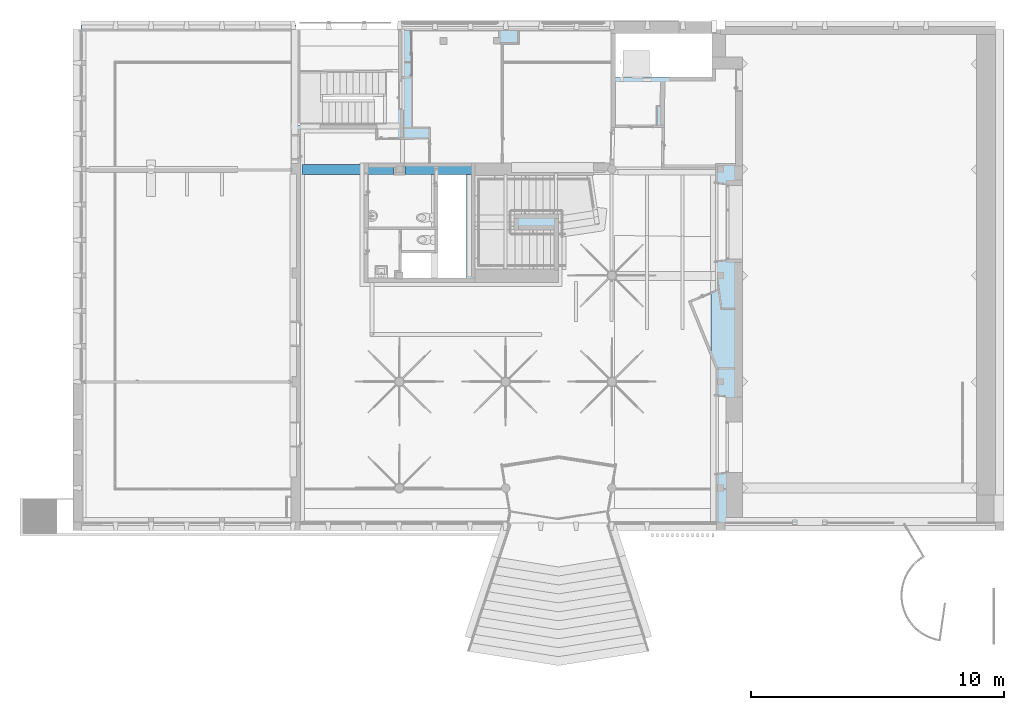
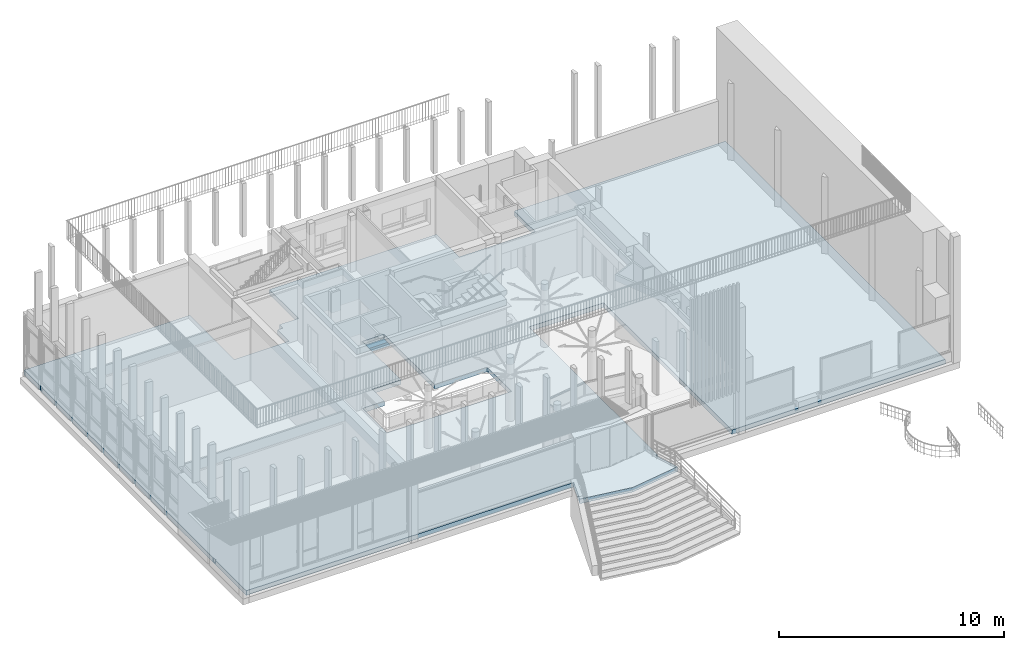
# One storey, part 26 of 65: 1 beam, 1 slab.
"""IFC4 building model written with IfcOpenShell, lengths in metres."""

from ifc_helpers import new_model, entity, si_unit, converted_unit, derived_unit, direction, frame, origin, place, context, subcontext, project, spatial, polygons, source, transform, mapped, material, layer, layer_set, type_object, type_shapes, element, save


model = new_model("IFC4")

# Units and contexts
model_context = context("Model", 3, precision=1e-05, world=origin(), true_north=direction((6.12303176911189e-17, 1.0)))
body_context = subcontext(model_context, "Body", "Model", "MODEL_VIEW")
ifc_project = project(units=[si_unit("LENGTHUNIT", "METRE"), si_unit("AREAUNIT", "SQUARE_METRE"), si_unit("VOLUMEUNIT", "CUBIC_METRE"), converted_unit("PLANEANGLEUNIT", "DEGREE", entity("IfcRatioMeasure", 0.0174532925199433), si_unit("PLANEANGLEUNIT", "RADIAN"), dimensions=[0, 0, 0, 0, 0, 0, 0]), si_unit("MASSUNIT", "GRAM", prefix="KILO"), derived_unit("MASSDENSITYUNIT", [(si_unit("MASSUNIT", "GRAM", prefix="KILO"), 1), (si_unit("LENGTHUNIT", "METRE"), -3)]), derived_unit("MOMENTOFINERTIAUNIT", [(si_unit("LENGTHUNIT", "METRE"), 4)]), si_unit("TIMEUNIT", "SECOND"), si_unit("FREQUENCYUNIT", "HERTZ"), si_unit("THERMODYNAMICTEMPERATUREUNIT", "DEGREE_CELSIUS"), derived_unit("THERMALTRANSMITTANCEUNIT", [(si_unit("MASSUNIT", "GRAM", prefix="KILO"), 1), (si_unit("THERMODYNAMICTEMPERATUREUNIT", "KELVIN"), -1), (si_unit("TIMEUNIT", "SECOND"), -3)]), derived_unit("VOLUMETRICFLOWRATEUNIT", [(si_unit("LENGTHUNIT", "METRE"), 3), (si_unit("TIMEUNIT", "SECOND"), -1)]), si_unit("ELECTRICCURRENTUNIT", "AMPERE"), si_unit("ELECTRICVOLTAGEUNIT", "VOLT"), si_unit("POWERUNIT", "WATT"), si_unit("FORCEUNIT", "NEWTON", prefix="KILO"), si_unit("ILLUMINANCEUNIT", "LUX"), si_unit("LUMINOUSFLUXUNIT", "LUMEN"), si_unit("LUMINOUSINTENSITYUNIT", "CANDELA"), derived_unit("USERDEFINED", [(si_unit("MASSUNIT", "GRAM", prefix="KILO"), -1), (si_unit("LENGTHUNIT", "METRE"), -2), (si_unit("TIMEUNIT", "SECOND"), 3), (si_unit("LUMINOUSFLUXUNIT", "LUMEN"), 1)]), derived_unit("LINEARVELOCITYUNIT", [(si_unit("LENGTHUNIT", "METRE"), 1), (si_unit("TIMEUNIT", "SECOND"), -1)]), si_unit("PRESSUREUNIT", "PASCAL"), derived_unit("USERDEFINED", [(si_unit("LENGTHUNIT", "METRE"), -2), (si_unit("MASSUNIT", "GRAM", prefix="KILO"), 1), (si_unit("TIMEUNIT", "SECOND"), -2)]), derived_unit("LINEARFORCEUNIT", [(si_unit("MASSUNIT", "GRAM", prefix="KILO"), 1), (si_unit("LENGTHUNIT", "METRE"), 1), (si_unit("TIMEUNIT", "SECOND"), -2), (si_unit("LENGTHUNIT", "METRE"), -1)]), derived_unit("PLANARFORCEUNIT", [(si_unit("MASSUNIT", "GRAM", prefix="KILO"), 1), (si_unit("LENGTHUNIT", "METRE"), 1), (si_unit("TIMEUNIT", "SECOND"), -2), (si_unit("LENGTHUNIT", "METRE"), -2)])], contexts=[model_context])

# Site, building, storey
site_placement = place(None, origin())
site = spatial("IfcSite", under=ifc_project, at=site_placement, Name="Default", CompositionType="ELEMENT")
building_placement = place(site_placement, origin())
building = spatial("IfcBuilding", under=site, at=building_placement, Name="HOTEL CONSULAIRE BOULOGNE SUR MER", CompositionType="ELEMENT")
storey_placement = place(building_placement, origin())
storey = spatial("IfcBuildingStorey", under=building, at=storey_placement, Name="Niveau 0", CompositionType="ELEMENT", Elevation=1.31981936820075e-13)

# Beam
ifc_material = material(Name="Béton - Béton coulé sur place", Category="Béton")
beam_type = type_object("IfcBeamType", Name="Poutre rectangulaire - Béton:400x220", PredefinedType="BEAM", material=ifc_material)
shared_shape = source(origin(), body_context, "Body", "Tessellation", [
    polygons([(0.0, 2.38230768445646e-14, 2.70716782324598e-16), (0.0, 2.38230768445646e-14, 0.22), (0.0, 0.0304277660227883, 0.22), (0.0, 0.0304277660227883, 2.70716782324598e-16), (3.63396950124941, 1.51601398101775e-14, 0.22), (3.63396950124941, 1.51601398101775e-14, 1.35358391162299e-16), (3.63396950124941, 0.400000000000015, 1.35358391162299e-16), (3.63396950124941, 0.400000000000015, 0.22), (0.0558009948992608, 2.38230768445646e-14, 2.70716782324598e-16), (0.12580099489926, 2.38230768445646e-14, 2.70716782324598e-16), (3.46132705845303, 1.51601398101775e-14, 1.35358391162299e-16), (3.53132705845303, 1.51601398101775e-14, 1.35358391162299e-16), (3.53132705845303, 1.51601398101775e-14, 0.22), (3.46132705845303, 1.51601398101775e-14, 0.22), (0.12580099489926, 2.38230768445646e-14, 0.22), (0.0558009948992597, 2.38230768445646e-14, 0.22), (0.0122845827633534, 0.0304277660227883, 2.03037586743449e-16), (0.0122845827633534, 0.400000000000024, 2.03037586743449e-16), (0.0558009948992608, 0.400000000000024, 2.03037586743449e-16), (0.125800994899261, 0.400000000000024, 2.03037586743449e-16), (3.46132705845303, 0.400000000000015, 1.35358391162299e-16), (3.53132705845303, 0.400000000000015, 1.35358391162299e-16), (0.0122845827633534, 0.400000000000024, 0.22), (0.0122845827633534, 0.0304277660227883, 0.22)], [[[4, 1, 2, 3]], [[18, 17, 24, 23]], [[6, 7, 8, 5]], [[12, 6, 5, 13, 14, 15, 16, 2, 1, 9, 10, 11]], [[6, 12, 11, 10, 9, 1, 4, 17, 18, 19, 20, 21, 22, 7]], [[7, 22, 21, 20, 19, 18, 23, 8]], [[17, 4, 3, 24]], [[8, 23, 24, 3, 2, 16, 15, 14, 13, 5]]], closed=True),
    polygons([(4.08396950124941, 1.29944055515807e-14, 0.22), (4.0839695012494, 1.29944055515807e-14, 1.35358391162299e-16), (5.1253328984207, 1.08286712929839e-14, 1.35358391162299e-16), (5.3753328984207, 8.66293703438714e-15, 1.35358391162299e-16), (5.39006092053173, 8.66293703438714e-15, 1.35358391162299e-16), (6.23956552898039, 6.49720277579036e-15, 6.76791955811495e-17), (6.30956552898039, 6.49720277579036e-15, 6.76791955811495e-17), (6.5333328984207, 6.49720277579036e-15, 6.76791955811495e-17), (6.7833328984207, 4.33146851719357e-15, 6.76791955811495e-17), (7.74639668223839, 2.16573425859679e-15, 0.0), (7.81639668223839, 2.16573425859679e-15, 0.0), (7.9896337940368, 2.16573425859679e-15, 0.0), (8.1096337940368, 2.16573425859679e-15, 0.0), (8.1096337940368, 2.16573425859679e-15, 0.22), (7.9896337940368, 2.16573425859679e-15, 0.22), (7.81639668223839, 2.16573425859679e-15, 0.22), (7.74639668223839, 2.16573425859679e-15, 0.22), (6.7833328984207, 4.33146851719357e-15, 0.22), (6.5333328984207, 6.49720277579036e-15, 0.22), (6.30956552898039, 6.49720277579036e-15, 0.22), (6.23956552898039, 6.49720277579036e-15, 0.22), (5.39006092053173, 8.66293703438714e-15, 0.22), (5.3753328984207, 8.66293703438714e-15, 0.22), (5.1253328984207, 1.08286712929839e-14, 0.22), (4.08396950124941, 0.400000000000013, 6.76791955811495e-17), (5.26006092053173, 0.400000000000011, 6.76791955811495e-17), (5.39006092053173, 0.400000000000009, 6.76791955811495e-17), (6.23956552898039, 0.400000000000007, 6.76791955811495e-17), (6.30956552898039, 0.400000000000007, 6.76791955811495e-17), (7.32980415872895, 0.400000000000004, 0.0), (7.84911541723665, 0.400000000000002, 0.0), (7.84911541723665, 0.300000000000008, 0.0), (7.84911541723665, 0.0765964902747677, 0.0), (7.84911541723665, 0.0300000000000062, 0.0), (8.1096337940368, 0.0300000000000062, 0.0), (4.08396950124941, 0.400000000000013, 0.22), (7.31780415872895, 0.400000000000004, 0.22), (7.84911541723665, 0.400000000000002, 0.22), (8.1096337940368, 0.0300000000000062, 0.22), (7.84911541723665, 0.0300000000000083, 0.22)], [[[15, 16, 17, 18, 19, 20, 21, 22, 23, 24, 1, 2, 3, 4, 5, 6, 7, 8, 9, 10, 11, 12, 13, 14]], [[35, 13, 12, 11, 10, 9, 8, 7, 6, 5, 4, 3, 2, 25, 26, 27, 28, 29, 30, 31, 32, 33, 34]], [[31, 30, 29, 28, 27, 26, 25, 36, 37, 38]], [[34, 40, 39, 35]], [[17, 16, 15, 14, 39, 40, 38, 37, 36, 1, 24, 23, 22, 21, 20, 19, 18]], [[2, 1, 36, 25]], [[32, 31, 38, 40, 34, 33]], [[35, 39, 14, 13]]], closed=True),
])
type_shapes(beam_type, [shared_shape])
beam_placement = place(storey_placement, frame((-5.08779272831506, -15.8256940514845, -0.490000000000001)))
element("IfcBeam", 1, at=beam_placement, inside=storey, type_object=beam_type, material=ifc_material, Name="Poutre rectangulaire - Béton:400x220", ObjectType="Poutre rectangulaire - Béton:400x220", PredefinedType="BEAM", context=body_context, shape_type="MappedRepresentation", body=[
    mapped(shared_shape, transform((0.0, 0.0, 0.0), scale=1.0)),
])

# Slab
ifc_layer = layer(ifc_material, 0.25, Name="Béton - Béton coulé sur place", Category="Béton")
ifc_layer_set = layer_set([ifc_layer], Name="Sol:Dalle en béton -250")
slab_type = type_object("IfcSlabType", Name="Sol:Dalle en béton -250", PredefinedType="FLOOR", material=ifc_layer_set)
slab_placement = place(storey_placement, origin())
element("IfcSlab", 2, at=slab_placement, inside=storey, type_object=slab_type, material=ifc_layer_set, Name="Sol:Dalle en béton -250", ObjectType="Sol:Dalle en béton -250", PredefinedType="FLOOR", context=body_context, shape_type="Tessellation", body=[
    polygons([(-5.3197731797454, -13.8709141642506, -0.27), (-5.24033751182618, -13.8709141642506, -0.27), (-5.1597731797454, -13.8709141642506, -0.27), (-2.50428982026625, -13.8709141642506, -0.27), (-2.50428982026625, -13.7983331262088, -0.27), (-2.50428982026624, -12.849121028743, -0.27), (-2.24428982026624, -12.849121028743, -0.27), (-2.24428982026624, -12.5416323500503, -0.27), (-2.16180109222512, -12.5416323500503, -0.27), (-1.25942350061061, -12.5416323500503, -0.27), (-1.25942350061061, -12.0991864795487, -0.27), (-1.25942350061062, -9.96532416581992, -0.27), (-1.17098066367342, -9.96532416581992, -0.27), (-1.1294235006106, -9.96532416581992, -0.27), (7.30898026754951, -9.96532416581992, -0.27), (7.30898026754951, -10.0746323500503, -0.27), (7.30898026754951, -10.23432416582, -0.27), (7.30898026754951, -11.9707913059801, -0.27), (7.30898026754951, -11.9891940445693, -0.27), (9.08776203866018, -11.9891940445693, -0.27), (9.44777870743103, -11.9891940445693, -0.27), (11.1311975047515, -11.9891940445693, -0.27), (11.2031975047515, -11.9891940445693, -0.27), (11.2031975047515, -11.1691940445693, -0.27), (11.2031975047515, -10.24032416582, -0.27), (11.2031975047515, -10.1340173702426, -0.27), (11.4609585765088, -10.1340173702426, -0.27), (21.6200604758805, -10.1340173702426, -0.27), (22.0329359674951, -10.1340173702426, -0.27), (22.0329359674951, -10.2140173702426, -0.27), (22.0329359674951, -29.3180671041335, -0.27), (22.0329359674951, -29.5640671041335, -0.27), (22.0329359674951, -29.6580671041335, -0.27), (11.0822268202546, -29.6580671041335, -0.27), (11.0822268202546, -29.5640671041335, -0.27), (11.0822268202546, -28.0462737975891, -0.27), (11.0822268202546, -27.9162737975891, -0.27), (11.0822268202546, -22.1692190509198, -0.27), (11.0822268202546, -21.9392190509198, -0.27), (11.0822268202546, -20.0152245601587, -0.27), (11.0822268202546, -19.6652245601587, -0.27), (11.0822268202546, -18.2783685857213, -0.27), (10.0280216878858, -18.2659703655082, -0.27), (9.90802168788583, -18.2645590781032, -0.27), (8.62702168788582, -18.249493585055, -0.27), (8.50702168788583, -18.24808229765, -0.27), (7.27213720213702, -18.2335591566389, -0.27), (7.27213720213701, -19.6652245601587, -0.27), (7.27213720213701, -20.0152245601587, -0.27), (7.272137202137, -27.9162737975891, -0.27), (7.272137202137, -28.0462737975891, -0.27), (7.272137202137, -29.3180671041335, -0.27), (7.272137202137, -29.5640671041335, -0.27), (7.272137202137, -29.6580671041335, -0.27), (7.17216877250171, -29.6580671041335, -0.27), (7.2451378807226, -29.8840671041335, -0.27), (7.57524089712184, -30.90646251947, -0.27), (7.43528173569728, -30.9286298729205, -0.27), (5.06085487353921, -31.3047021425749, -0.27), (2.69909746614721, -30.9306365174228, -0.27), (2.55895849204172, -30.9084406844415, -0.27), (2.8987678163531, -29.8840671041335, -0.27), (2.97373744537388, -29.6580671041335, -0.27), (-13.8039806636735, -29.6580671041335, -0.27), (-13.8150998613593, -29.6580671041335, -0.27), (-13.8150998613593, -28.2725999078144, -0.27), (-13.8150998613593, -28.1502999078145, -0.27), (-13.8150998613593, -26.8725999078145, -0.27), (-13.8150998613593, -26.7502999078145, -0.27), (-13.8150998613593, -25.4725999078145, -0.27), (-13.8150998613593, -25.3502999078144, -0.27), (-13.8150998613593, -24.0725999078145, -0.27), (-13.8150998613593, -23.9502999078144, -0.27), (-13.8150998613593, -22.6725999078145, -0.27), (-13.8150998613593, -22.5502999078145, -0.27), (-13.8150998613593, -21.2725999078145, -0.27), (-13.8150998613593, -21.1502999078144, -0.27), (-13.8150998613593, -19.8725999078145, -0.27), (-13.8150998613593, -19.7502999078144, -0.27), (-13.8150998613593, -18.4725999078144, -0.27), (-13.8150998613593, -18.3502999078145, -0.27), (-13.8150998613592, -17.0725999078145, -0.27), (-13.8150998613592, -16.9502999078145, -0.27), (-13.8150998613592, -15.6725999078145, -0.27), (-13.8150998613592, -15.5502999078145, -0.27), (-13.8150998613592, -14.2725999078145, -0.27), (-13.8150998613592, -14.1502999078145, -0.27), (-13.8150998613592, -12.8725999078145, -0.27), (-13.8150998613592, -12.7502999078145, -0.27), (-13.8150998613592, -11.4725999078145, -0.27), (-13.8150998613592, -11.3502999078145, -0.27), (-13.8150998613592, -10.0846323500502, -0.27), (-13.8150998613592, -9.91463235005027, -0.27), (-13.7939806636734, -9.91463235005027, -0.27), (-5.50398066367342, -9.91463235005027, -0.27), (-5.3197731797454, -9.91463235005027, -0.27), (-5.3197731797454, -10.0846323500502, -0.27), (-1.15234448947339, -20.0049143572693, -0.27), (-2.27435158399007, -20.0049143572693, -0.27), (-2.27435158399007, -20.0949143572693, -0.27), (-2.27435158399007, -22.1692190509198, -0.27), (4.10717677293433, -22.1692190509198, -0.27), (4.10717677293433, -22.0792190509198, -0.27), (4.11741462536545, -22.0792190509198, -0.27), (4.11741462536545, -20.0949143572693, -0.27), (4.10717677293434, -20.0949143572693, -0.27), (4.10717677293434, -20.0049143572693, -0.27), (2.70617677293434, -20.0049143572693, -0.27), (1.41777280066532, -20.0049143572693, -0.27), (1.41777280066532, -19.9149143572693, -0.27), (1.41777280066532, -19.8349143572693, -0.27), (1.41777280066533, -16.421909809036, -0.27), (1.41777280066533, -15.5052420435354, -0.27), (0.302268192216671, -15.5052420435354, -0.27), (0.302268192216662, -18.9327095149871, -0.27), (-1.15234448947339, -18.9327095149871, -0.27), (-1.15234448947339, -19.9149143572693, -0.27), (-1.15234448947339, -19.992909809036, -0.27), (-2.50428982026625, -13.8709141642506, -0.02), (-2.66468350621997, -13.8709141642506, -0.02), (-5.1597731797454, -13.8709141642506, -0.02), (-5.3197731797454, -13.8709141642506, -0.02), (-5.3197731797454, -10.0846323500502, -0.02), (-5.3197731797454, -9.91463235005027, -0.02), (-5.50398066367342, -9.91463235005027, -0.02), (-8.15492540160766, -9.91463235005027, -0.02), (-8.32791454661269, -9.91463235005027, -0.02), (-10.9549254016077, -9.91463235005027, -0.02), (-11.1279145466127, -9.91463235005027, -0.02), (-13.7939806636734, -9.91463235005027, -0.02), (-13.8150998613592, -9.91463235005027, -0.02), (-13.8150998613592, -10.0846323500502, -0.02), (-13.8150998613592, -10.1503241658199, -0.02), (-13.8150998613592, -11.3114499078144, -0.02), (-13.7881025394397, -11.3114499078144, -0.02), (-13.7881025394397, -11.5114499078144, -0.02), (-13.8150998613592, -11.5114499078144, -0.02), (-13.8150998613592, -12.7114499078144, -0.02), (-13.8150998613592, -12.9114499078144, -0.02), (-13.8150998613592, -14.1114499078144, -0.02), (-13.8150998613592, -14.3114499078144, -0.02), (-13.8150998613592, -15.5114499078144, -0.02), (-13.8150998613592, -15.7114499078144, -0.02), (-13.8150998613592, -16.9114499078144, -0.02), (-13.8150998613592, -17.1114499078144, -0.02), (-13.8150998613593, -18.3114499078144, -0.02), (-13.8150998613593, -18.5114499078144, -0.02), (-13.8150998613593, -19.7114499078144, -0.02), (-13.8150998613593, -19.9114499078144, -0.02), (-13.8150998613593, -21.1114499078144, -0.02), (-13.8150998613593, -21.3114499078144, -0.02), (-13.8150998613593, -22.5114499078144, -0.02), (-13.8150998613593, -22.7114499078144, -0.02), (-13.8150998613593, -23.9114499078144, -0.02), (-13.8150998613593, -24.1114499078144, -0.02), (-13.8150998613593, -26.7114499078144, -0.02), (-13.7881025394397, -26.7114499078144, -0.02), (-13.7881025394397, -26.9114499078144, -0.02), (-13.8150998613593, -26.9114499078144, -0.02), (-13.8150998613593, -29.6580671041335, -0.02), (-13.7293496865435, -29.6580671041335, -0.02), (-5.50977317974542, -29.6580671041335, -0.02), (2.82623558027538, -29.6580671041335, -0.02), (2.97373744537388, -29.6580671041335, -0.02), (2.55895849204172, -30.9084406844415, -0.02), (2.69909746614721, -30.9306365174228, -0.02), (5.06085487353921, -31.3047021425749, -0.02), (7.43528173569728, -30.9286298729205, -0.02), (7.57524089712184, -30.90646251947, -0.02), (7.17216877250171, -29.6580671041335, -0.02), (7.272137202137, -29.6580671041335, -0.02), (7.272137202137, -29.5760989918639, -0.02), (7.27213720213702, -18.2335591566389, -0.02), (11.0822268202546, -18.2783685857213, -0.02), (11.0822268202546, -29.6580671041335, -0.02), (11.6466382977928, -29.6580671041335, -0.02), (14.3064778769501, -29.6580671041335, -0.02), (14.4864778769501, -29.6580671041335, -0.02), (15.4884235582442, -29.6580671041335, -0.02), (15.6684235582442, -29.6580671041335, -0.02), (22.0329359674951, -29.6580671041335, -0.02), (22.0329359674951, -29.5540671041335, -0.02), (22.0329359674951, -29.3880671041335, -0.02), (22.0329359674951, -28.480909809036, -0.02), (22.0329359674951, -10.2940173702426, -0.02), (22.0329359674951, -10.1340173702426, -0.02), (21.5779359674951, -10.1340173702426, -0.02), (11.4609585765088, -10.1340173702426, -0.02), (11.2031975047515, -10.1340173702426, -0.02), (11.2031975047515, -10.24032416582, -0.02), (11.2031975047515, -11.1691940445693, -0.02), (11.2031975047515, -11.9891940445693, -0.02), (11.1311975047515, -11.9891940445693, -0.02), (9.44777870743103, -11.9891940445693, -0.02), (9.08776203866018, -11.9891940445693, -0.02), (7.30898026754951, -11.9891940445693, -0.02), (7.30898026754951, -10.24032416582, -0.02), (7.30898026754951, -9.96532416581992, -0.02), (7.12898026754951, -9.96532416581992, -0.02), (-1.25942350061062, -9.96532416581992, -0.02), (-1.25942350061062, -10.15032416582, -0.02), (-1.25942350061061, -12.5416323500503, -0.02), (-2.24428982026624, -12.5416323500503, -0.02), (-2.24428982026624, -12.849121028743, -0.02), (-2.50428982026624, -12.849121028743, -0.02), (-2.50428982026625, -13.7983331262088, -0.02), (-2.27435158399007, -20.0049143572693, -0.02), (-1.15234448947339, -20.0049143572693, -0.02), (-1.15234448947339, -19.9149143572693, -0.02), (-1.15234448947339, -19.6199143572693, -0.02), (-1.15234448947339, -18.9327095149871, -0.02), (0.172268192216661, -18.9327095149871, -0.02), (0.302268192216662, -18.9327095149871, -0.02), (0.302268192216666, -18.0025602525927, -0.02), (0.302268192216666, -17.8875602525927, -0.02), (0.302268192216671, -15.5052420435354, -0.02), (1.41777280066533, -15.5052420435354, -0.02), (1.41777280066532, -19.9149143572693, -0.02), (1.41777280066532, -20.0049143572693, -0.02), (2.70617677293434, -20.0049143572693, -0.02), (4.10717677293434, -20.0049143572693, -0.02), (4.10717677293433, -22.1692190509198, -0.02), (-2.23349679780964, -22.1692190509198, -0.02), (-2.27435158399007, -22.1692190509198, -0.02), (-2.27435158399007, -20.0949143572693, -0.02), (-1.25942350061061, -12.5416323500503, -0.175524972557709), (-1.25942350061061, -9.96532416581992, -0.22), (4.10717677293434, -20.0949143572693, -0.178964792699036), (4.10717677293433, -22.0792190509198, -0.178964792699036), (7.30898026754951, -9.96532416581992, -0.220000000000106), (22.0329359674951, -29.6580671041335, -0.220000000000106), (11.0822268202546, -29.6580671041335, -0.169999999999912), (11.0822268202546, -29.6580671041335, -0.220000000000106), (-13.8150998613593, -29.6580671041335, -0.220000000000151), (-13.8150998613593, -26.9114499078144, -0.220000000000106), (-13.8150998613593, -26.7114499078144, -0.220000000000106), (-13.8150998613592, -11.5114499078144, -0.220000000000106), (-13.8150998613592, -11.3114499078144, -0.220000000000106), (22.0329359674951, -10.1340173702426, -0.220000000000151), (-13.7881025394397, -26.9114499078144, -0.220000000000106), (-13.7881025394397, -26.7114499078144, -0.220000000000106), (11.0822268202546, -18.2783685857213, -0.169999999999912), (7.27213720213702, -18.2335591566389, -0.169999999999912), (7.272137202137, -29.6580671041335, -0.169999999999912), (7.272137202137, -29.6580671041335, -0.220000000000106), (7.17216877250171, -29.6580671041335, -0.220000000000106), (2.97373744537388, -29.6580671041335, -0.220000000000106), (5.06085487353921, -31.3047021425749, -0.151783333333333), (5.06085487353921, -31.3047021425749, -0.181783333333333), (-13.7881025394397, -11.5114499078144, -0.220000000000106), (-13.7881025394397, -11.3114499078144, -0.220000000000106), (4.11741462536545, -20.0949143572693, -0.178964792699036), (4.11741462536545, -22.0792190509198, -0.178964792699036)], [[[92, 93, 94, 95, 96, 97, 1, 2, 3, 4, 5, 6, 7, 8, 9, 10, 11, 12, 13, 14, 15, 16, 17, 18, 19, 20, 21, 22, 23, 24, 25, 26, 27, 28, 29, 30, 31, 32, 33, 34, 35, 36, 37, 38, 39, 40, 41, 42, 43, 44, 45, 46, 47, 48, 49, 50, 51, 52, 53, 54, 55, 56, 57, 58, 59, 60, 61, 62, 63, 64, 65, 66, 67, 68, 69, 70, 71, 72, 73, 74, 75, 76, 77, 78, 79, 80, 81, 82, 83, 84, 85, 86, 87, 88, 89, 90, 91], [99, 100, 101, 102, 103, 104, 105, 106, 107, 108, 109, 110, 111, 112, 113, 114, 115, 116, 117, 118, 98]], [[228, 252, 253, 229]], [[187, 188, 189, 190, 191, 192, 193, 194, 195, 196, 197, 198, 199, 200, 201, 202, 203, 204, 205, 206, 119, 120, 121, 122, 123, 124, 125, 126, 127, 128, 129, 130, 131, 132, 133, 134, 135, 136, 137, 138, 139, 140, 141, 142, 143, 144, 145, 146, 147, 148, 149, 150, 151, 152, 153, 154, 155, 156, 157, 158, 159, 160, 161, 162, 163, 164, 165, 166, 167, 168, 169, 170, 171, 172, 173, 174, 175, 176, 177, 178, 179, 180, 181, 182, 183, 184, 185, 186], [217, 218, 219, 220, 221, 222, 223, 224, 225, 207, 208, 209, 210, 211, 212, 213, 214, 215, 216]], [[241, 236, 235, 240]], [[238, 237, 250, 251]], [[3, 2, 1, 122, 121, 120, 119, 4]], [[9, 8, 203, 202, 226, 10]], [[94, 93, 131, 130, 129, 128, 127, 126, 125, 124, 96, 95]], [[14, 13, 12, 227, 200, 199, 198, 230, 15]], [[27, 26, 189, 188, 187, 186, 239, 29, 28]], [[7, 6, 205, 204]], [[235, 159, 158, 240]], [[20, 19, 196, 195, 194, 193, 192, 23, 22, 21]], [[102, 101, 224, 223, 222]], [[250, 237, 137, 136]], [[104, 103, 229, 253]], [[5, 4, 119, 206, 205, 6]], [[201, 200, 227, 12, 11, 10, 226, 202]], [[103, 102, 222, 221, 107, 106, 228, 229]], [[235, 236, 156, 155, 154, 153, 152, 151, 150, 149, 148, 147, 146, 145, 144, 143, 142, 141, 140, 139, 138, 137, 237, 238, 134, 133, 132, 131, 93, 92, 91, 90, 89, 88, 87, 86, 85, 84, 83, 82, 81, 80, 79, 78, 77, 76, 75, 74, 73, 72, 71, 70, 69, 68, 67, 66, 65, 234, 160, 159]], [[111, 110, 109, 219, 218, 217, 113, 112]], [[8, 7, 204, 203]], [[241, 240, 158, 157]], [[24, 23, 192, 191, 190, 189, 26, 25]], [[36, 35, 34, 233, 232, 175, 174, 242, 42, 41, 40, 39, 38, 37]], [[251, 250, 136, 135]], [[104, 253, 252, 105]], [[99, 98, 208, 207]], [[33, 231, 181, 180, 179, 178, 177, 176, 175, 232, 233, 34]], [[108, 107, 221, 220, 219, 109]], [[114, 113, 217, 216]], [[241, 157, 156, 236]], [[55, 54, 245, 244, 171, 170, 246]], [[116, 115, 213, 212, 211]], [[64, 63, 247, 164, 163, 162, 161, 160, 234, 65]], [[238, 251, 135, 134]], [[106, 105, 252, 228]], [[100, 99, 207, 225, 224, 101]], [[16, 15, 230, 198, 197, 196, 19, 18, 17]], [[115, 114, 216, 215, 214, 213]], [[97, 96, 124, 123, 122, 1]], [[184, 183, 182, 181, 231, 33, 32, 31, 30, 29, 239, 186, 185]], [[48, 47, 243, 173, 172, 171, 244, 245, 54, 53, 52, 51, 50, 49]], [[117, 116, 211, 210, 209, 208, 98, 118]], [[44, 43, 42, 242, 174, 173, 243, 47, 46, 45]], [[56, 55, 246, 170, 169, 57]], [[62, 61, 165, 164, 247, 63]], [[249, 59, 58, 57, 169, 168, 167, 248]], [[59, 249, 248, 167, 166, 165, 61, 60]]], closed=True),
])

save(model, "model.ifc")
